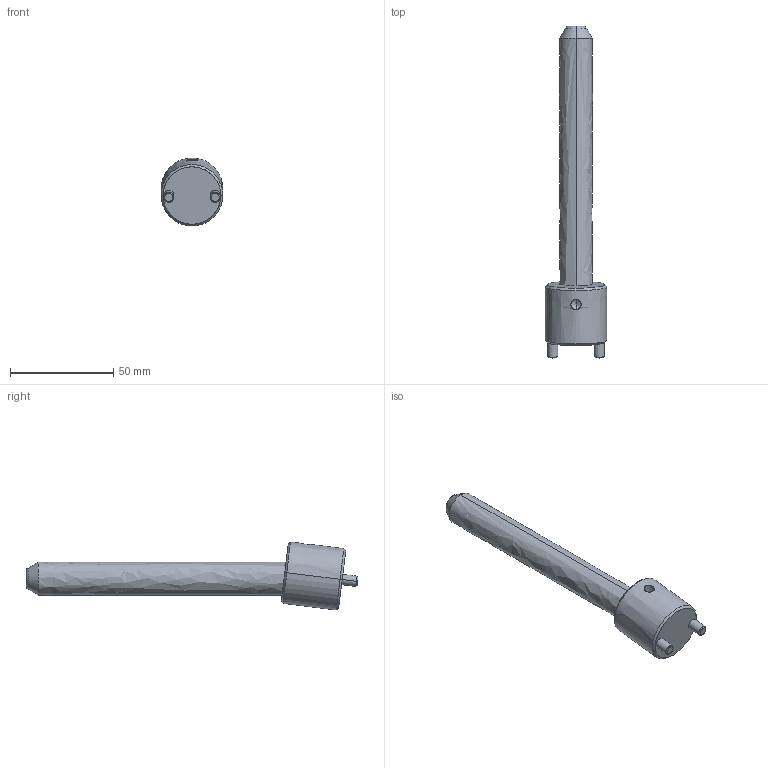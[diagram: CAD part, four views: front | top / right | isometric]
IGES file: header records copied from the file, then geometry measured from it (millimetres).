
Start section: START RECORD GO HERE.
Global section: file name: CI0716125.igs; native system: DASSAULT SYSTEMES CATIA V5 R20 - www.3ds.com; preprocessor: CATIA Version 5 Release 20 ; author: r.borello; organization: CFTORINO; date: 20190624.090652; units: millimetre
Bounding box: 30 x 160.84 x 32.95 mm (x, y, z)
Surface area: 13240.1 mm2 (no closed solid volume)
Topology: 0 solids, 0 shells, 39 faces, 162 edges, 160 vertices
Faces by surface type: revolution 32, plane 7
